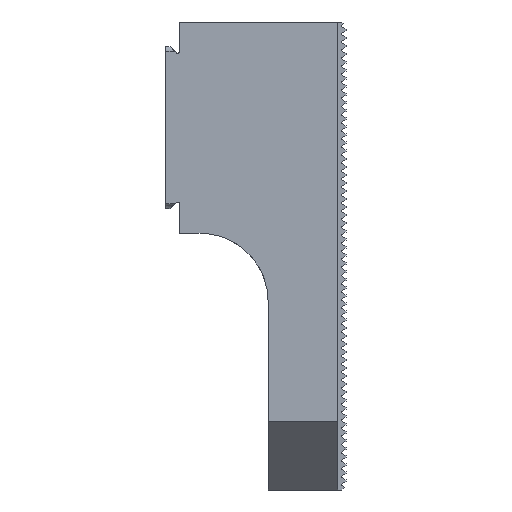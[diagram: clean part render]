
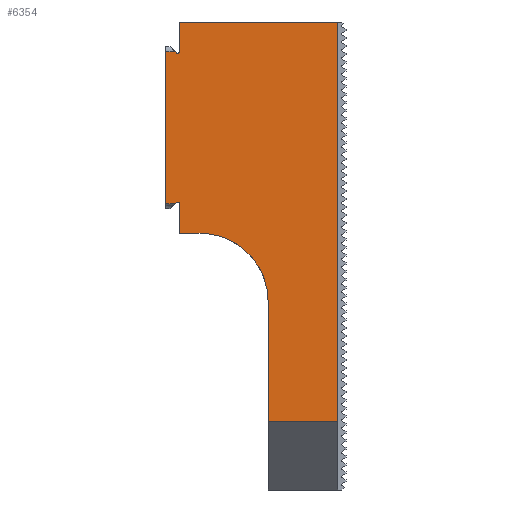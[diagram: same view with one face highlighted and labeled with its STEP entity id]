
A CAD part, left-side view. The second image highlights one B-rep face of the part: STEP entity #6354.
In plain terms, the highlighted planar face has unit normal (-1, 0, 0).
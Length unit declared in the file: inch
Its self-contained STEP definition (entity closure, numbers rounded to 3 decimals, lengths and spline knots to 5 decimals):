
#480 = AXIS2_PLACEMENT_3D ( 'NONE', #7746, #22711, #18872 ) ;
#513 = DIRECTION ( 'NONE',  ( 1., 0., 0. ) ) ;
#690 = ORIENTED_EDGE ( 'NONE', *, *, #4487, .T. ) ;
#1031 = ORIENTED_EDGE ( 'NONE', *, *, #18331, .F. ) ;
#1071 = VECTOR ( 'NONE', #23033, 39.37008 ) ;
#1251 = ORIENTED_EDGE ( 'NONE', *, *, #20064, .F. ) ;
#1288 = VERTEX_POINT ( 'NONE', #22296 ) ;
#1355 = VERTEX_POINT ( 'NONE', #3265 ) ;
#1428 = EDGE_CURVE ( 'NONE', #3053, #21871, #15229, .T. ) ;
#1486 = CARTESIAN_POINT ( 'NONE',  ( -3., 0.84822, -1.3825 ) ) ;
#1582 = CARTESIAN_POINT ( 'NONE',  ( -3., 0.84822, -1.3825 ) ) ;
#1636 = VERTEX_POINT ( 'NONE', #14605 ) ;
#1714 = EDGE_CURVE ( 'NONE', #7489, #22304, #22770, .T. ) ;
#1746 = ORIENTED_EDGE ( 'NONE', *, *, #13276, .F. ) ;
#1879 = FACE_OUTER_BOUND ( 'NONE', #25039, .T. ) ;
#2183 = VECTOR ( 'NONE', #5268, 39.37008 ) ;
#2363 = CARTESIAN_POINT ( 'NONE',  ( -3., 1.025, -1.3825 ) ) ;
#2539 = LINE ( 'NONE', #5977, #8091 ) ;
#2593 = ORIENTED_EDGE ( 'NONE', *, *, #3538, .F. ) ;
#2670 = EDGE_CURVE ( 'NONE', #1288, #7489, #18489, .T. ) ;
#2733 = VECTOR ( 'NONE', #8344, 39.37008 ) ;
#2918 = LINE ( 'NONE', #20676, #23334 ) ;
#3053 = VERTEX_POINT ( 'NONE', #17525 ) ;
#3071 = EDGE_CURVE ( 'NONE', #21871, #13958, #21359, .T. ) ;
#3265 = CARTESIAN_POINT ( 'NONE',  ( -3., 0.875, -1.6 ) ) ;
#3510 = LINE ( 'NONE', #1582, #1071 ) ;
#3538 = EDGE_CURVE ( 'NONE', #23462, #1288, #2918, .T. ) ;
#4114 = DIRECTION ( 'NONE',  ( 0., 0.707, -0.707 ) ) ;
#4349 = LINE ( 'NONE', #19931, #19143 ) ;
#4487 = EDGE_CURVE ( 'NONE', #1355, #1636, #14792, .T. ) ;
#4673 = LINE ( 'NONE', #14277, #14349 ) ;
#4720 = VECTOR ( 'NONE', #23198, 39.37008 ) ;
#4863 = EDGE_CURVE ( 'NONE', #6712, #22437, #2539, .T. ) ;
#5018 = EDGE_CURVE ( 'NONE', #12882, #3053, #13006, .T. ) ;
#5186 = ORIENTED_EDGE ( 'NONE', *, *, #10209, .F. ) ;
#5268 = DIRECTION ( 'NONE',  ( 0., -1., 0. ) ) ;
#5400 = AXIS2_PLACEMENT_3D ( 'NONE', #17764, #513, #16106 ) ;
#5517 = CARTESIAN_POINT ( 'NONE',  ( -3., 0.84822, -0.2675 ) ) ;
#5977 = CARTESIAN_POINT ( 'NONE',  ( -3., 1.025, -1.38621 ) ) ;
#6000 = VECTOR ( 'NONE', #13629, 39.37008 ) ;
#6354 = ADVANCED_FACE ( 'NONE', ( #1879 ), #25253, .T. ) ;
#6497 = EDGE_CURVE ( 'NONE', #22304, #9330, #4673, .T. ) ;
#6664 = VECTOR ( 'NONE', #4114, 39.37008 ) ;
#6712 = VERTEX_POINT ( 'NONE', #16806 ) ;
#6750 = VECTOR ( 'NONE', #18589, 39.37008 ) ;
#7489 = VERTEX_POINT ( 'NONE', #14011 ) ;
#7746 = CARTESIAN_POINT ( 'NONE',  ( -3., 1.04, -0.26379 ) ) ;
#7833 = CARTESIAN_POINT ( 'NONE',  ( -3., 1.04, -1.38621 ) ) ;
#7920 = LINE ( 'NONE', #23511, #18080 ) ;
#7959 = VECTOR ( 'NONE', #16510, 39.37008 ) ;
#7975 = VERTEX_POINT ( 'NONE', #8338 ) ;
#8091 = VECTOR ( 'NONE', #14046, 39.37008 ) ;
#8291 = AXIS2_PLACEMENT_3D ( 'NONE', #15769, #17429, #10023 ) ;
#8338 = CARTESIAN_POINT ( 'NONE',  ( -3., -0.13567, -2.98425 ) ) ;
#8344 = DIRECTION ( 'NONE',  ( 0., 1., 0. ) ) ;
#8761 = VERTEX_POINT ( 'NONE', #18367 ) ;
#8968 = CARTESIAN_POINT ( 'NONE',  ( -3., -0.13567, -6.21585 ) ) ;
#9187 = EDGE_CURVE ( 'NONE', #7975, #8761, #18181, .T. ) ;
#9330 = VERTEX_POINT ( 'NONE', #21108 ) ;
#9460 = ORIENTED_EDGE ( 'NONE', *, *, #1714, .F. ) ;
#9726 = DIRECTION ( 'NONE',  ( 0., -1., 0. ) ) ;
#9752 = ORIENTED_EDGE ( 'NONE', *, *, #9187, .T. ) ;
#9845 = EDGE_CURVE ( 'NONE', #13958, #15754, #17194, .T. ) ;
#10023 = DIRECTION ( 'NONE',  ( 0., 0., 1. ) ) ;
#10046 = LINE ( 'NONE', #15662, #6000 ) ;
#10138 = CARTESIAN_POINT ( 'NONE',  ( -3., 0.375, -3.48425 ) ) ;
#10209 = EDGE_CURVE ( 'NONE', #22437, #12882, #3510, .T. ) ;
#10567 = AXIS2_PLACEMENT_3D ( 'NONE', #7833, #17422, #21513 ) ;
#11162 = CARTESIAN_POINT ( 'NONE',  ( -3., 1.125, -1.3825 ) ) ;
#12172 = ORIENTED_EDGE ( 'NONE', *, *, #9845, .F. ) ;
#12352 = ORIENTED_EDGE ( 'NONE', *, *, #4863, .F. ) ;
#12438 = LINE ( 'NONE', #10138, #17477 ) ;
#12469 = LINE ( 'NONE', #22045, #6750 ) ;
#12882 = VERTEX_POINT ( 'NONE', #18233 ) ;
#13006 = CIRCLE ( 'NONE', #10567, 0.015 ) ;
#13276 = EDGE_CURVE ( 'NONE', #15754, #22836, #12469, .T. ) ;
#13547 = ORIENTED_EDGE ( 'NONE', *, *, #2670, .F. ) ;
#13629 = DIRECTION ( 'NONE',  ( 0., -1., 0. ) ) ;
#13906 = EDGE_CURVE ( 'NONE', #15513, #7975, #7920, .T. ) ;
#13958 = VERTEX_POINT ( 'NONE', #22719 ) ;
#13979 = DIRECTION ( 'NONE',  ( 0., 0., 1. ) ) ;
#14011 = CARTESIAN_POINT ( 'NONE',  ( -3., 1.02547, -0.2675 ) ) ;
#14046 = DIRECTION ( 'NONE',  ( 0., 0., 1. ) ) ;
#14277 = CARTESIAN_POINT ( 'NONE',  ( -3., 1.025, -0.05 ) ) ;
#14349 = VECTOR ( 'NONE', #22547, 39.37008 ) ;
#14605 = CARTESIAN_POINT ( 'NONE',  ( -3., 0.375, -2.1 ) ) ;
#14792 = CIRCLE ( 'NONE', #5400, 0.5 ) ;
#15003 = CARTESIAN_POINT ( 'NONE',  ( -3., 1.05061, -1.37561 ) ) ;
#15229 = CIRCLE ( 'NONE', #16055, 0.015 ) ;
#15339 = ORIENTED_EDGE ( 'NONE', *, *, #5018, .F. ) ;
#15513 = VERTEX_POINT ( 'NONE', #19607 ) ;
#15662 = CARTESIAN_POINT ( 'NONE',  ( -3., 0.84822, -0.2675 ) ) ;
#15741 = CARTESIAN_POINT ( 'NONE',  ( -3., 1.125, -1.45 ) ) ;
#15754 = VERTEX_POINT ( 'NONE', #11162 ) ;
#15769 = CARTESIAN_POINT ( 'NONE',  ( -3., 1.04, -0.26379 ) ) ;
#15807 = ORIENTED_EDGE ( 'NONE', *, *, #22943, .F. ) ;
#16055 = AXIS2_PLACEMENT_3D ( 'NONE', #19594, #17673, #25218 ) ;
#16106 = DIRECTION ( 'NONE',  ( 0., 0., 1. ) ) ;
#16510 = DIRECTION ( 'NONE',  ( 0., 0., 1. ) ) ;
#16806 = CARTESIAN_POINT ( 'NONE',  ( -3., 1.025, -1.6 ) ) ;
#17182 = CARTESIAN_POINT ( 'NONE',  ( -3., 1.025, -0.2675 ) ) ;
#17194 = LINE ( 'NONE', #1486, #4720 ) ;
#17422 = DIRECTION ( 'NONE',  ( -1., 0., 0. ) ) ;
#17429 = DIRECTION ( 'NONE',  ( -1., 0., 0. ) ) ;
#17477 = VECTOR ( 'NONE', #13979, 39.37008 ) ;
#17525 = CARTESIAN_POINT ( 'NONE',  ( -3., 1.04, -1.37121 ) ) ;
#17562 = ORIENTED_EDGE ( 'NONE', *, *, #6497, .F. ) ;
#17673 = DIRECTION ( 'NONE',  ( -1., 0., 0. ) ) ;
#17764 = CARTESIAN_POINT ( 'NONE',  ( -3., 0.875, -2.1 ) ) ;
#18080 = VECTOR ( 'NONE', #9726, 39.37008 ) ;
#18181 = LINE ( 'NONE', #8968, #7959 ) ;
#18233 = CARTESIAN_POINT ( 'NONE',  ( -3., 1.02547, -1.3825 ) ) ;
#18331 = EDGE_CURVE ( 'NONE', #1355, #6712, #23930, .T. ) ;
#18367 = CARTESIAN_POINT ( 'NONE',  ( -3., -0.13567, -0.05 ) ) ;
#18489 = CIRCLE ( 'NONE', #8291, 0.015 ) ;
#18589 = DIRECTION ( 'NONE',  ( 0., 0., 1. ) ) ;
#18872 = DIRECTION ( 'NONE',  ( 0., 0., 1. ) ) ;
#19143 = VECTOR ( 'NONE', #22088, 39.37008 ) ;
#19594 = CARTESIAN_POINT ( 'NONE',  ( -3., 1.04, -1.38621 ) ) ;
#19607 = CARTESIAN_POINT ( 'NONE',  ( -3., 0.375, -2.98425 ) ) ;
#19664 = CARTESIAN_POINT ( 'NONE',  ( -3., 1.125, -0.2675 ) ) ;
#19931 = CARTESIAN_POINT ( 'NONE',  ( -3., 0., -0.05 ) ) ;
#20064 = EDGE_CURVE ( 'NONE', #22836, #23462, #10046, .T. ) ;
#20334 = ORIENTED_EDGE ( 'NONE', *, *, #1428, .F. ) ;
#20636 = EDGE_CURVE ( 'NONE', #15513, #1636, #12438, .T. ) ;
#20676 = CARTESIAN_POINT ( 'NONE',  ( -3., 1.05061, -0.27439 ) ) ;
#20870 = CARTESIAN_POINT ( 'NONE',  ( -3., 1.0575, -0.2675 ) ) ;
#21108 = CARTESIAN_POINT ( 'NONE',  ( -3., 1.025, -0.05 ) ) ;
#21242 = ORIENTED_EDGE ( 'NONE', *, *, #20636, .F. ) ;
#21359 = LINE ( 'NONE', #15741, #6664 ) ;
#21513 = DIRECTION ( 'NONE',  ( 0., 0., 1. ) ) ;
#21871 = VERTEX_POINT ( 'NONE', #15003 ) ;
#22045 = CARTESIAN_POINT ( 'NONE',  ( -3., 1.125, -0.2 ) ) ;
#22088 = DIRECTION ( 'NONE',  ( 0., -1., 0. ) ) ;
#22296 = CARTESIAN_POINT ( 'NONE',  ( -3., 1.05061, -0.27439 ) ) ;
#22304 = VERTEX_POINT ( 'NONE', #17182 ) ;
#22437 = VERTEX_POINT ( 'NONE', #2363 ) ;
#22547 = DIRECTION ( 'NONE',  ( 0., 0., 1. ) ) ;
#22711 = DIRECTION ( 'NONE',  ( -1., 0., 0. ) ) ;
#22719 = CARTESIAN_POINT ( 'NONE',  ( -3., 1.0575, -1.3825 ) ) ;
#22770 = LINE ( 'NONE', #5517, #2183 ) ;
#22775 = ORIENTED_EDGE ( 'NONE', *, *, #3071, .F. ) ;
#22836 = VERTEX_POINT ( 'NONE', #19664 ) ;
#22943 = EDGE_CURVE ( 'NONE', #9330, #8761, #4349, .T. ) ;
#23033 = DIRECTION ( 'NONE',  ( 0., 1., 0. ) ) ;
#23198 = DIRECTION ( 'NONE',  ( 0., 1., 0. ) ) ;
#23334 = VECTOR ( 'NONE', #24492, 39.37008 ) ;
#23462 = VERTEX_POINT ( 'NONE', #20870 ) ;
#23511 = CARTESIAN_POINT ( 'NONE',  ( -3., -0.13567, -2.98425 ) ) ;
#23930 = LINE ( 'NONE', #24168, #2733 ) ;
#24168 = CARTESIAN_POINT ( 'NONE',  ( -3., 1.025, -1.6 ) ) ;
#24408 = ORIENTED_EDGE ( 'NONE', *, *, #13906, .T. ) ;
#24492 = DIRECTION ( 'NONE',  ( 0., -0.707, -0.707 ) ) ;
#25039 = EDGE_LOOP ( 'NONE', ( #21242, #24408, #9752, #15807, #17562, #9460, #13547, #2593, #1251, #1746, #12172, #22775, #20334, #15339, #5186, #12352, #1031, #690 ) ) ;
#25218 = DIRECTION ( 'NONE',  ( 0., 0., 1. ) ) ;
#25253 = PLANE ( 'NONE',  #480 ) ;
